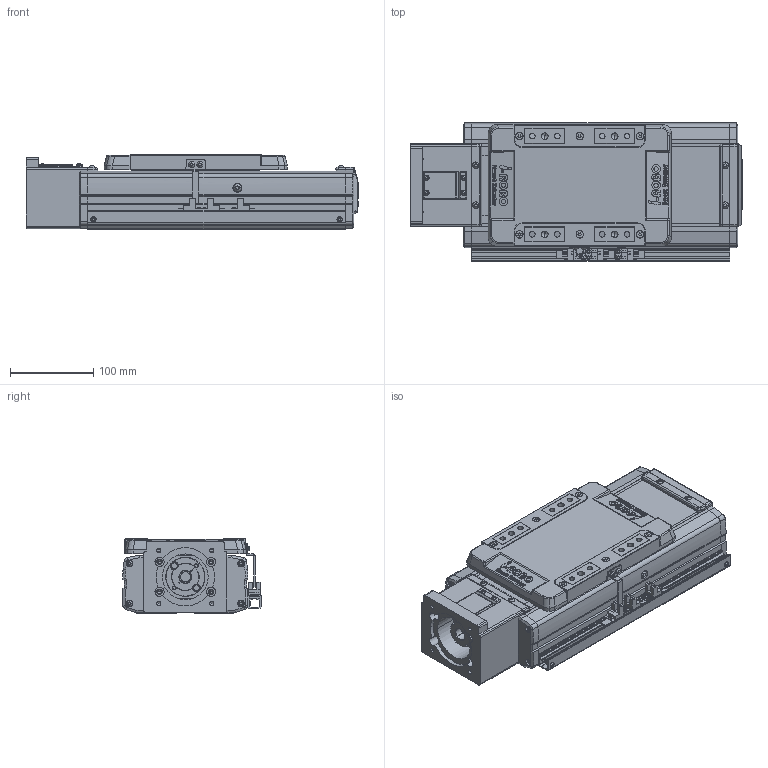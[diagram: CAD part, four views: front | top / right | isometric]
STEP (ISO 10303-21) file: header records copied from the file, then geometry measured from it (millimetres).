
FILE_DESCRIPTION(('STEP AP214'),'1');
FILE_NAME('Z:/Web/3D/SAN150/2013.04 (STP.)/SAN150ㅁㅁ-50S+3SR.stp','2013-05-08T02:55:57',(' '),(' '),'Spatial InterOp 3D',' ',' ');
FILE_SCHEMA(('automotive_design'));
Length unit declared in the file: millimetre
Products named in the file (91): SLBL-SAN150; SLCV-SAN150; FHCS M4.0 x 8.0; BHCS M4.0 x 10.0; SFX-SAN150; RRCV-SAN150; FRBL-SAN150; Spacer; RN15; FRCV-SAN150; Screw 20; BASE-SAN150-000L ; SUS COVER; 스크루 : Round - M5.0 x 6.0; BHCS M3.0 x 6.0; SSFX-SAN65; CPLCV-SAN65; SDWA47C(2); SDWA47C(3-1); SDWA47C(3); SDWA47C(1); SDWA47C(4); SDWA47C(5); MTHZ-SAN150-80; M3.0 x 6.0; SRL-16x17-360L; SGD-SAN150; EE-SX674; SBK-SX674-352; 스크루 : Round - M3.0 x 6.0
Bounding box: 399 x 166 x 90 mm (x, y, z)
Volume: 2974103 mm3; surface area: 626331.9 mm2
Topology: 91 solids, 91 shells, 3186 faces, 8287 edges, 5381 vertices
Faces by surface type: plane 1529, cylinder 1187, cone 353, sphere 72, bspline 29, torus 16
Entity records: 127922 total; most frequent: CARTESIAN_POINT 20019, DIRECTION 17907, ORIENTED_EDGE 16390, EDGE_CURVE 8195, AXIS2_PLACEMENT_3D 6596, VERTEX_POINT 5381, LINE 4715, VECTOR 4715
